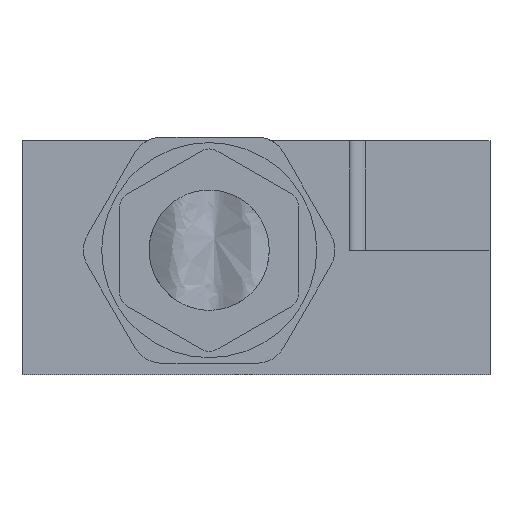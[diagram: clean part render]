
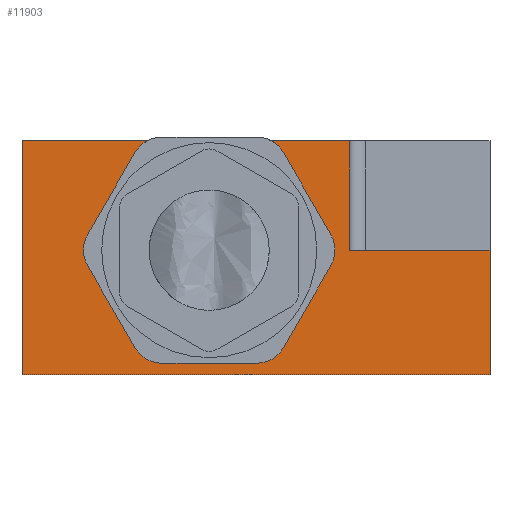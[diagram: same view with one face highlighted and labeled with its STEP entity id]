
A CAD part, front view. The second image highlights one B-rep face of the part: STEP entity #11903.
In plain terms, the highlighted planar face has unit normal (0, -1, 0).
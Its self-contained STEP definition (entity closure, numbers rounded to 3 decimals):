
#8342=DIRECTION('',(0.5,0.,-0.866));
#8343=VECTOR('',#8342,6.062);
#8344=CARTESIAN_POINT('',(1.763,-38.,6.75));
#8345=LINE('',#8344,#8343);
#8354=CARTESIAN_POINT('',(0.031,-38.,5.75));
#8355=DIRECTION('',(0.,-1.,0.));
#8356=DIRECTION('',(0.866,0.,0.5));
#8357=AXIS2_PLACEMENT_3D('',#8354,#8355,#8356);
#8359=DIRECTION('',(0.,0.,-1.));
#8360=VECTOR('',#8359,7.);
#8361=CARTESIAN_POINT('',(6.,-38.,7.5));
#8362=LINE('',#8361,#8360);
#8363=DIRECTION('',(-1.,0.,0.));
#8364=VECTOR('',#8363,30.);
#8365=CARTESIAN_POINT('',(15.,-38.,-7.5));
#8366=LINE('',#8365,#8364);
#8367=DIRECTION('',(0.,0.,1.));
#8368=VECTOR('',#8367,15.);
#8369=CARTESIAN_POINT('',(-15.,-38.,-7.5));
#8370=LINE('',#8369,#8368);
#8371=CARTESIAN_POINT('',(-6.031,-38.,5.75));
#8372=DIRECTION('',(0.,-1.,0.));
#8373=DIRECTION('',(-0.484,0.,0.875));
#8374=AXIS2_PLACEMENT_3D('',#8371,#8372,#8373);
#8376=CARTESIAN_POINT('',(-9.062,-38.,0.5));
#8377=DIRECTION('',(0.,-1.,0.));
#8378=DIRECTION('',(-0.866,0.,0.5));
#8379=AXIS2_PLACEMENT_3D('',#8376,#8377,#8378);
#8381=CARTESIAN_POINT('',(-6.031,-38.,-4.75));
#8382=DIRECTION('',(0.,-1.,0.));
#8383=DIRECTION('',(-0.866,0.,-0.5));
#8384=AXIS2_PLACEMENT_3D('',#8381,#8382,#8383);
#8386=CARTESIAN_POINT('',(0.031,-38.,-4.75));
#8387=DIRECTION('',(0.,-1.,0.));
#8388=DIRECTION('',(0.,0.,-1.));
#8389=AXIS2_PLACEMENT_3D('',#8386,#8387,#8388);
#8391=CARTESIAN_POINT('',(3.062,-38.,0.5));
#8392=DIRECTION('',(0.,-1.,0.));
#8393=DIRECTION('',(0.866,0.,-0.5));
#8394=AXIS2_PLACEMENT_3D('',#8391,#8392,#8393);
#8412=DIRECTION('',(0.5,0.,0.866));
#8413=VECTOR('',#8412,6.062);
#8414=CARTESIAN_POINT('',(-10.794,-38.,1.5));
#8415=LINE('',#8414,#8413);
#8424=DIRECTION('',(-0.5,0.,0.866));
#8425=VECTOR('',#8424,6.062);
#8426=CARTESIAN_POINT('',(-7.763,-38.,-5.75));
#8427=LINE('',#8426,#8425);
#8436=DIRECTION('',(-1.,0.,0.));
#8437=VECTOR('',#8436,6.062);
#8438=CARTESIAN_POINT('',(0.031,-38.,-6.75));
#8439=LINE('',#8438,#8437);
#8448=DIRECTION('',(-0.5,0.,-0.866));
#8449=VECTOR('',#8448,6.062);
#8450=CARTESIAN_POINT('',(4.794,-38.,-0.5));
#8451=LINE('',#8450,#8449);
#8466=DIRECTION('',(-1.,0.,0.));
#8467=VECTOR('',#8466,8.001);
#8468=CARTESIAN_POINT('',(-6.999,-38.,7.5));
#8469=LINE('',#8468,#8467);
#8478=DIRECTION('',(-1.,0.,0.));
#8479=VECTOR('',#8478,5.001);
#8480=CARTESIAN_POINT('',(6.,-38.,7.5));
#8481=LINE('',#8480,#8479);
#9217=DIRECTION('',(0.,0.,1.));
#9218=VECTOR('',#9217,8.);
#9219=CARTESIAN_POINT('',(15.,-38.,-7.5));
#9220=LINE('',#9219,#9218);
#9233=DIRECTION('',(-1.,0.,0.));
#9234=VECTOR('',#9233,9.);
#9235=CARTESIAN_POINT('',(15.,-38.,0.5));
#9236=LINE('',#9235,#9234);
#10742=CARTESIAN_POINT('',(1.763,-38.,6.75));
#10743=CARTESIAN_POINT('',(4.794,-38.,1.5));
#10744=VERTEX_POINT('',#10742);
#10745=VERTEX_POINT('',#10743);
#10808=CARTESIAN_POINT('',(-6.999,-38.,7.5));
#10809=CARTESIAN_POINT('',(-15.,-38.,7.5));
#10810=VERTEX_POINT('',#10808);
#10811=VERTEX_POINT('',#10809);
#10812=CARTESIAN_POINT('',(-15.,-38.,-7.5));
#10814=VERTEX_POINT('',#10812);
#10839=CARTESIAN_POINT('',(15.,-38.,0.5));
#10841=VERTEX_POINT('',#10839);
#10842=CARTESIAN_POINT('',(6.,-38.,7.5));
#10844=VERTEX_POINT('',#10842);
#11171=CARTESIAN_POINT('',(-7.763,-38.,6.75));
#11172=VERTEX_POINT('',#11171);
#11173=CARTESIAN_POINT('',(-10.794,-38.,1.5));
#11174=VERTEX_POINT('',#11173);
#11175=CARTESIAN_POINT('',(-10.794,-38.,-0.5));
#11176=VERTEX_POINT('',#11175);
#11177=CARTESIAN_POINT('',(-7.763,-38.,-5.75));
#11178=VERTEX_POINT('',#11177);
#11179=CARTESIAN_POINT('',(-6.031,-38.,-6.75));
#11180=VERTEX_POINT('',#11179);
#11181=CARTESIAN_POINT('',(0.031,-38.,-6.75));
#11182=VERTEX_POINT('',#11181);
#11183=CARTESIAN_POINT('',(1.763,-38.,-5.75));
#11184=VERTEX_POINT('',#11183);
#11185=CARTESIAN_POINT('',(4.794,-38.,-0.5));
#11186=VERTEX_POINT('',#11185);
#11187=CARTESIAN_POINT('',(0.999,-38.,7.5));
#11188=VERTEX_POINT('',#11187);
#11191=CARTESIAN_POINT('',(15.,-38.,-7.5));
#11192=VERTEX_POINT('',#11191);
#11195=CARTESIAN_POINT('',(6.,-38.,0.5));
#11196=VERTEX_POINT('',#11195);
#11861=CARTESIAN_POINT('',(15.,-38.,7.5));
#11862=DIRECTION('',(0.,1.,0.));
#11863=DIRECTION('',(0.,0.,1.));
#11864=AXIS2_PLACEMENT_3D('',#11861,#11862,#11863);
#11865=PLANE('',#11864);
#11866=ORIENTED_EDGE('',*,*,#11851,.F.);
#11868=ORIENTED_EDGE('',*,*,#11867,.T.);
#11870=ORIENTED_EDGE('',*,*,#11869,.F.);
#11872=ORIENTED_EDGE('',*,*,#11871,.T.);
#11874=ORIENTED_EDGE('',*,*,#11873,.F.);
#11876=ORIENTED_EDGE('',*,*,#11875,.F.);
#11878=ORIENTED_EDGE('',*,*,#11877,.T.);
#11880=ORIENTED_EDGE('',*,*,#11879,.T.);
#11882=ORIENTED_EDGE('',*,*,#11881,.F.);
#11884=ORIENTED_EDGE('',*,*,#11883,.T.);
#11886=ORIENTED_EDGE('',*,*,#11885,.F.);
#11888=ORIENTED_EDGE('',*,*,#11887,.T.);
#11890=ORIENTED_EDGE('',*,*,#11889,.F.);
#11892=ORIENTED_EDGE('',*,*,#11891,.T.);
#11894=ORIENTED_EDGE('',*,*,#11893,.F.);
#11896=ORIENTED_EDGE('',*,*,#11895,.T.);
#11898=ORIENTED_EDGE('',*,*,#11897,.F.);
#11900=ORIENTED_EDGE('',*,*,#11899,.T.);
#11901=EDGE_LOOP('',(#11866,#11868,#11870,#11872,#11874,#11876,#11878,#11880,
#11882,#11884,#11886,#11888,#11890,#11892,#11894,#11896,#11898,#11900));
#11902=FACE_OUTER_BOUND('',#11901,.F.);
#11903=ADVANCED_FACE('',(#11902),#11865,.F.);
#8358=CIRCLE('',#8357,2.);
#8375=CIRCLE('',#8374,2.);
#8380=CIRCLE('',#8379,2.);
#8385=CIRCLE('',#8384,2.);
#8390=CIRCLE('',#8389,2.);
#8395=CIRCLE('',#8394,2.);
#11851=EDGE_CURVE('',#10744,#10745,#8345,.T.);
#11867=EDGE_CURVE('',#10744,#11188,#8358,.T.);
#11869=EDGE_CURVE('',#10844,#11188,#8481,.T.);
#11871=EDGE_CURVE('',#10844,#11196,#8362,.T.);
#11873=EDGE_CURVE('',#10841,#11196,#9236,.T.);
#11875=EDGE_CURVE('',#11192,#10841,#9220,.T.);
#11877=EDGE_CURVE('',#11192,#10814,#8366,.T.);
#11879=EDGE_CURVE('',#10814,#10811,#8370,.T.);
#11881=EDGE_CURVE('',#10810,#10811,#8469,.T.);
#11883=EDGE_CURVE('',#10810,#11172,#8375,.T.);
#11885=EDGE_CURVE('',#11174,#11172,#8415,.T.);
#11887=EDGE_CURVE('',#11174,#11176,#8380,.T.);
#11889=EDGE_CURVE('',#11178,#11176,#8427,.T.);
#11891=EDGE_CURVE('',#11178,#11180,#8385,.T.);
#11893=EDGE_CURVE('',#11182,#11180,#8439,.T.);
#11895=EDGE_CURVE('',#11182,#11184,#8390,.T.);
#11897=EDGE_CURVE('',#11186,#11184,#8451,.T.);
#11899=EDGE_CURVE('',#11186,#10745,#8395,.T.);
